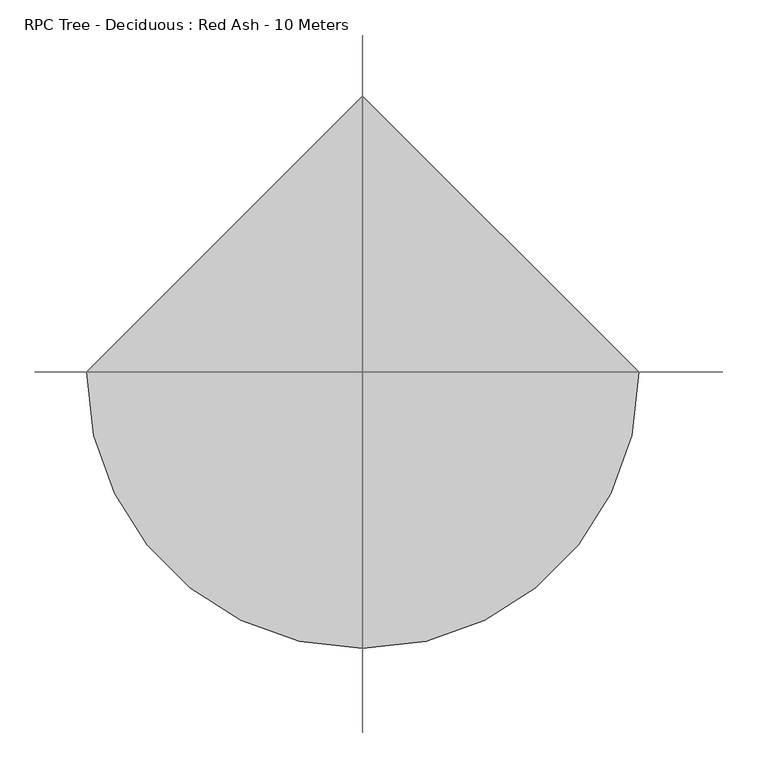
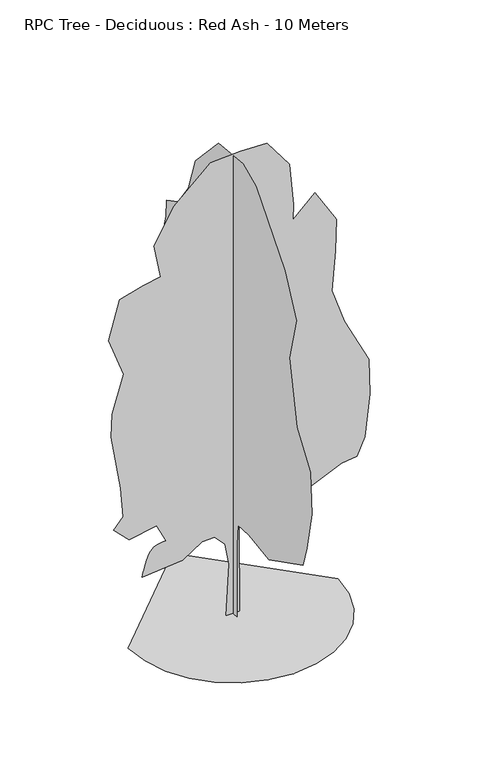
"""IFC4 building model written with IfcOpenShell, lengths in millimetres: geographic element geometry, RPC Tree - Deciduous : Red Ash - 10 Meters."""

from ifc_helpers import new_model, si_unit, origin, place, context, project, spatial, triangles, source, transform, mapped, element, save


def rpc_tree_deciduous_red_ash_10_meters_1bd7eb3f(model_context):
    return source(origin(), model_context, "Body", "Tessellation", [
        triangles([(-2158.7304428, 0.0, 8.12e-05), (-2101.6602345, -494.6382671, 8.12e-05), (-1939.1265507, -948.884305, 8.12e-05), (-1684.14226, -1349.7235737, 8.12e-05), (-1349.723719, -1684.1425507, 8.12e-05), (-948.884087, -1939.1261147, 8.12e-05), (-494.6380128, -2101.6602345, 8.12e-05), (9.44e-05, -2158.7304428, 8.12e-05), (494.6383035, -2101.6603798, 8.12e-05), (948.8843777, -1939.1264053, 8.12e-05), (1349.723719, -1684.14226, 8.12e-05), (1684.1428413, -1349.723719, 8.12e-05), (1939.12626, -948.8840143, 8.12e-05), (2101.6602345, -494.6379038, 8.12e-05), (2158.7304428, 0.0001887, 8.12e-05), (-0.0002831, 2158.7304428, 8.12e-05), (-1.41e-05, -134.968842, 0.0), (3.29e-05, -132.8697059, 1567.6562016), (4.24e-05, -170.4487711, 2018.1141712), (9e-07, -575.8863238, 2044.8365227), (-7.58e-05, -1281.3533283, 1940.0353615), (-0.0001844, -2498.2844261, 2557.3189041), (-0.0001854, -2639.3778488, 3015.8728912), (-0.0001786, -2815.7446999, 3862.4334274), (-0.0001468, -2762.8351387, 4744.2676826), (-7.63e-05, -2283.9659672, 5434.4060806), (-7.2e-06, -2004.4602081, 6772.486615), (-4.6e-06, -2251.3715904, 7724.8674362), (6.29e-05, -1845.7283272, 8571.4285538), (0.0002059, -822.8009399, 9788.3595062), (0.0002606, -358.5310953, 9997.6304535), (0.0003494, 517.5874114, 9911.8170868), (0.0004096, 1346.5117058, 9029.9825409), (0.0004132, 1593.4255589, 8289.2417084), (0.0004361, 1963.7943764, 7760.1408646), (0.0004721, 2369.4398197, 7548.5014572), (0.0004634, 2387.0763885, 7195.7671738), (0.0004624, 2492.8966736, 6790.1233292), (0.0004298, 2316.5298225, 6313.9332092), (0.0004327, 2475.2599594, 5855.3798035), (0.0004303, 2633.9900963, 5220.459256), (0.0004214, 2598.7169586, 5044.0915329), (0.0003775, 2298.893399, 4620.8112648), (0.0003582, 2279.9364166, 4038.8005692), (0.0003454, 2263.6198254, 3668.4301529), (0.0003336, 2281.2565395, 3209.8767471), (0.0003165, 2298.8935444, 2574.9564903), (0.000285, 2051.9796913, 2380.9524891), (0.0002372, 1593.4261402, 2380.9524891), (0.0002398, 1805.0662743, 1728.3952274), (0.0002251, 1769.6786087, 1358.11623), (0.000199, 1447.5472538, 1611.3339134), (0.0001294, 826.066511, 1452.3721046), (0.0001286, 724.031242, 1780.9199284), (8.25e-05, 283.350092, 1776.9062199), (6.59e-05, 171.6551655, 1611.9876526), (4.29e-05, 104.3954447, 1073.8623596), (1.54e-05, 147.1994908, 1.68e-05), (-145.4998307, 6.4e-06, 5.85e-05), (-87.5478629, -0.0001266, 1093.8341784), (-169.6946202, -0.0001784, 1558.9810043), (-381.6113726, -0.0001969, 1791.7554588), (-634.6935265, -0.0001848, 1783.0660183), (-1044.9708818, -0.0001351, 1516.7550934), (-1873.8950672, -9.05e-05, 1446.2085274), (-1862.428616, -9.64e-05, 1491.817226), (-1850.1909908, -0.0001026, 1538.9682724), (-1836.4107273, -0.0001092, 1589.2043049), (-1820.3166515, -0.0001164, 1644.0686886), (-1801.1375896, -0.0001245, 1705.1020271), (-1778.1019318, -0.0001337, 1773.849575), (-1750.438504, -0.0001442, 1851.851936), (-1715.5766785, -0.0001544, 1924.1985374), (-1672.3846928, -0.0001626, 1977.1085346), (-1622.2512703, -0.0001692, 2013.8211193), (-1566.5644077, -0.0001744, 2037.5772274), (-1506.7129738, -0.0001787, 2051.6141613), (-1444.0843838, -0.0001823, 2059.1727116), (-1380.0677971, -0.0001857, 2063.49207), (-1574.0710716, -0.0002234, 2451.4992004), (-2138.4453438, -0.0001862, 2345.6789154), (-2455.9050362, -0.0002101, 2663.1397705), (-2261.9016163, -0.0002459, 2892.4167641), (-2314.8116135, -0.0003193, 3527.3373116), (-2508.8151787, -0.0004517, 4708.994545), (-2491.4447273, -0.0005108, 5198.3797897), (-2257.1096123, -0.0006152, 5988.6164383), (-2561.7253212, -0.0007017, 6825.3961761), (-2332.448037, -0.0008084, 7636.6844467), (-1856.2582077, -0.000846, 7777.7775787), (-1493.9806114, -0.0008695, 7841.6829803), (-1626.9815048, -0.0009486, 8553.7918396), (-1221.3373695, -0.0010525, 9276.8965393), (-462.9597138, -0.0011677, 9964.7266479), (154.323738, -0.0011988, 10000.0000763), (701.0613504, -0.0012206, 9982.3627808), (1159.6151196, -0.0011671, 9365.0795288), (1243.926543, -0.001063, 8461.3096939), (1231.8201599, -0.001023, 8129.8816681), (1688.715382, -0.0010935, 8553.7918396), (2129.632655, -0.0010266, 7830.6871399), (2111.9960861, -0.0009444, 7147.6503433), (2033.4087318, -0.0008399, 6300.0683578), (2288.3627918, -0.0007623, 5555.5556625), (2797.5905754, -0.000665, 4552.7532097), (2813.8259216, -0.0005756, 3796.3377525), (2711.6429146, -0.0004633, 2892.4161827), (2552.9127777, -0.0004122, 2522.0457664), (2235.452504, -0.0003942, 2486.7726288), (1618.168816, -0.0003335, 2204.5854927), (1071.4311127, -0.0002634, 1816.5785076), (337.895727, -0.0002689, 2131.9800407), (122.1140034, -0.0002318, 1899.7831673), (136.6866695, -6e-06, 4.62e-05)], [[15, 16, 1], [14, 15, 1], [14, 1, 2], [13, 14, 2], [13, 2, 3], [13, 3, 4], [12, 13, 4], [11, 12, 4], [11, 4, 5], [11, 5, 6], [11, 6, 7], [11, 7, 8], [11, 8, 9], [11, 9, 10], [50, 51, 52], [57, 58, 17], [57, 17, 18], [56, 57, 18], [56, 18, 19], [55, 56, 19], [49, 50, 52], [52, 53, 54], [49, 52, 54], [35, 36, 37], [46, 47, 48], [46, 48, 49], [21, 22, 23], [20, 21, 23], [20, 23, 24], [20, 24, 25], [20, 25, 26], [19, 20, 26], [19, 26, 27], [45, 46, 49], [31, 32, 33], [30, 31, 33], [29, 30, 33], [29, 33, 34], [28, 29, 34], [27, 28, 34], [19, 27, 34], [19, 34, 35], [19, 35, 37], [19, 37, 38], [19, 38, 39], [19, 39, 40], [19, 40, 41], [19, 41, 42], [19, 42, 43], [19, 43, 44], [19, 44, 45], [19, 45, 49], [19, 49, 54], [55, 19, 54], [64, 65, 66], [64, 66, 67], [64, 67, 68], [99, 100, 101], [64, 68, 69], [64, 69, 70], [64, 70, 71], [114, 59, 60], [113, 114, 60], [113, 60, 61], [113, 61, 62], [64, 71, 72], [64, 72, 73], [64, 73, 74], [64, 74, 75], [64, 75, 76], [64, 76, 77], [64, 77, 78], [64, 78, 79], [63, 64, 79], [81, 82, 83], [80, 81, 83], [99, 101, 102], [107, 108, 109], [110, 111, 112], [88, 89, 90], [87, 88, 90], [87, 90, 91], [80, 83, 84], [95, 96, 97], [95, 97, 98], [94, 95, 98], [93, 94, 98], [92, 93, 98], [91, 92, 98], [91, 98, 99], [87, 91, 99], [87, 99, 102], [87, 102, 103], [87, 103, 104], [86, 87, 104], [85, 86, 104], [84, 85, 104], [80, 84, 104], [80, 104, 105], [80, 105, 106], [80, 106, 107], [80, 107, 109], [80, 109, 110], [80, 110, 112], [79, 80, 112], [63, 79, 112], [62, 63, 112], [113, 62, 112]], closed=False),
    ])


if __name__ == "__main__":
    model = new_model("IFC4")
    model_context = context("Model", 3, world=origin())
    ifc_project = project(units=[si_unit("LENGTHUNIT", "METRE", prefix="MILLI")], contexts=[model_context])
    site = spatial("IfcSite", under=ifc_project)
    building = spatial("IfcBuilding", under=site)
    placement = place(None, origin())
    rpc_tree_deciduous_red_ash_10_meters_shape = rpc_tree_deciduous_red_ash_10_meters_1bd7eb3f(model_context)
    element("IfcGeographicElement", 1, ObjectType="RPC Tree - Deciduous : Red Ash - 10 Meters", at=placement, inside=building, context=model_context, shape_type="MappedRepresentation", body=[
        mapped(rpc_tree_deciduous_red_ash_10_meters_shape, transform((0.0, 0.0, 0.0), x_axis=(1.0, 0.0, 0.0), y_axis=(0.0, 1.0, 0.0), z_axis=(0.0, 0.0, 1.0))),
    ])
    save(model, "model.ifc")
